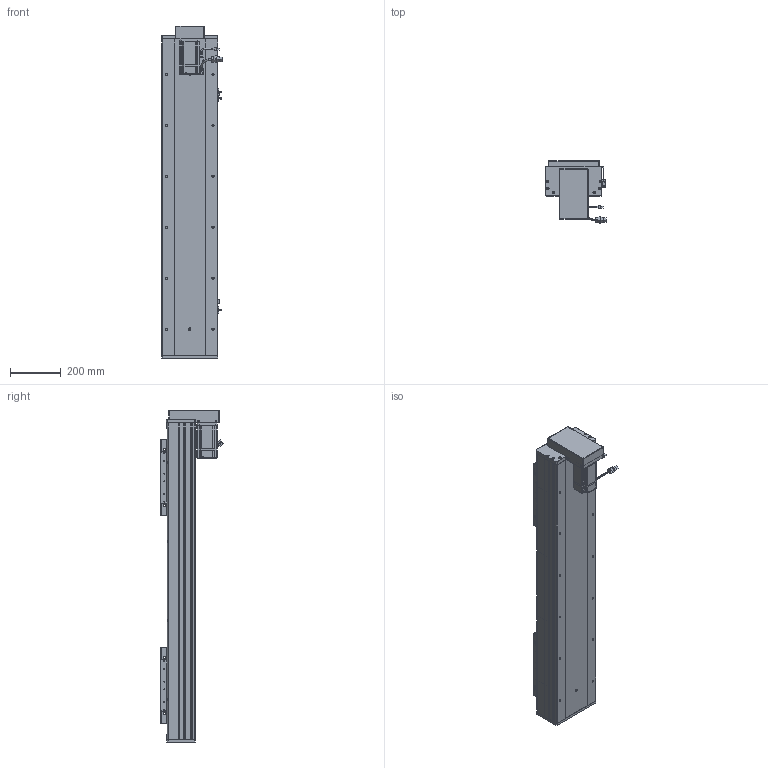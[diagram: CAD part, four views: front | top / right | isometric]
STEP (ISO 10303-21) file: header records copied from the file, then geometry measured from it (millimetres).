
FILE_DESCRIPTION (( 'STEP AP203' ), '1' );
FILE_NAME ('RY220F-L2525-800-BK-邧嶺.SLDASM_800.step', '2022-08-06T08:07:35', ( '' ), ( '' ), 'SwSTEP 2.0', 'SolidWorks 2016', '' );
FILE_SCHEMA (( 'CONFIG_CONTROL_DESIGN' ));
Length unit declared in the file: millimetre
Products named in the file (15): RY220F-L2525-800-BK-邧嶺.SLDASM_800; RY220F-祥凄詩湍-蛌殏-800_800; 侐源滅袉蝶; RY220F-蛌殏奻裔啣-800_800; 滅袉蝶18-24; RY220F臏賑釱25-32佪裝; RY220狟殏萇儂假蚾啣; 覜茼ん672; 怢湛750W_ECMA-CX0807ES; RY220F綴裔啣; RY220狟殏萇儂欶; RY220F-滅鳥奻裔; RY220F-詩湍揤踡輸; RY220F蛌殏菁釱-800-邧嶺_800; RY220F-672覜茼んえ
Assembly tree (24 placements, depth 2):
  RY220F-L2525-800-BK-邧嶺.SLDASM_800
    RY220F蛌殏菁釱-800-邧嶺_800
    RY220F-蛌殏奻裔啣-800_800  x2
    怢湛750W_ECMA-CX0807ES
    RY220F臏賑釱25-32佪裝  x2
    RY220F-滅鳥奻裔  x2
    滅袉蝶18-24  x3
    RY220F綴裔啣
    RY220F-祥凄詩湍-蛌殏-800_800
    RY220F-詩湍揤踡輸  x2
    覜茼ん672  x3
    RY220F-672覜茼んえ  x2
    侐源滅袉蝶  x2
    RY220狟殏萇儂假蚾啣
    RY220狟殏萇儂欶
Bounding box: 237.27 x 247.24 x 1303 mm (x, y, z)
Volume: 13275499.9 mm3; surface area: 3398409.7 mm2
Topology: 25 solids, 25 shells, 2743 faces, 7458 edges, 4619 vertices
Faces by surface type: cylinder 1214, plane 1062, cone 396, bspline 45, sphere 16, torus 10
Entity records: 67889 total; most frequent: CARTESIAN_POINT 18533, ORIENTED_EDGE 9994, DIRECTION 9657, EDGE_CURVE 4997, AXIS2_PLACEMENT_3D 3410, VERTEX_POINT 3235, VECTOR 2837, LINE 2837
